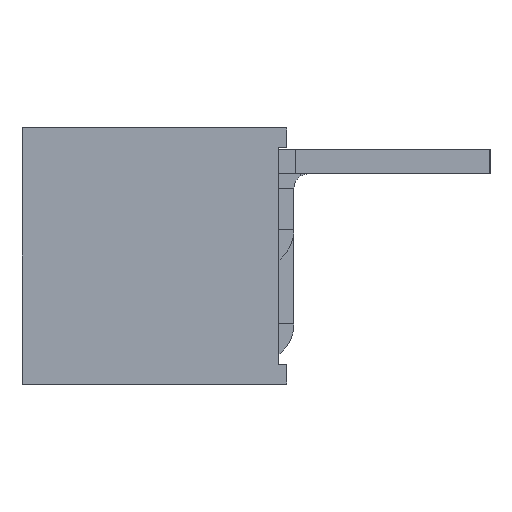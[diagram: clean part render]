
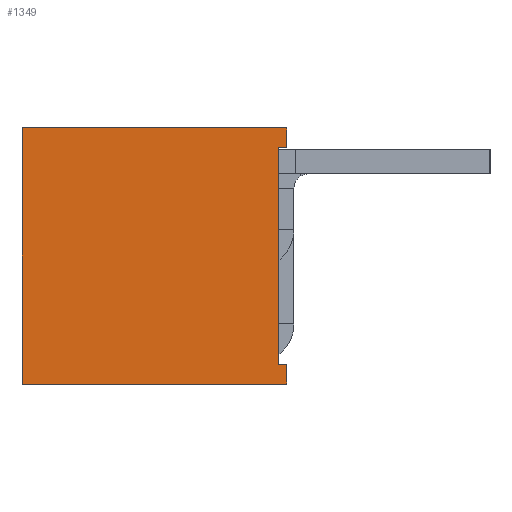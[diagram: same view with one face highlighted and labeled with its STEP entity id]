
A CAD part, left-side view. The second image highlights one B-rep face of the part: STEP entity #1349.
In plain terms, the highlighted planar face has unit normal (-1, 0, 0).
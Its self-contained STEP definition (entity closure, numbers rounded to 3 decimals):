
#144 = VECTOR ( 'NONE', #3069, 1000. ) ;
#329 = LINE ( 'NONE', #7819, #1824 ) ;
#434 = EDGE_CURVE ( 'NONE', #7177, #3387, #677, .T. ) ;
#587 = ORIENTED_EDGE ( 'NONE', *, *, #4355, .F. ) ;
#677 = LINE ( 'NONE', #1103, #870 ) ;
#870 = VECTOR ( 'NONE', #1685, 1000. ) ;
#978 = LINE ( 'NONE', #5955, #2458 ) ;
#1103 = CARTESIAN_POINT ( 'NONE',  ( -490.3, -69.373, 0. ) ) ;
#1194 = DIRECTION ( 'NONE',  ( 0., 0., -1. ) ) ;
#1201 = EDGE_CURVE ( 'NONE', #6006, #6346, #978, .T. ) ;
#1206 = CARTESIAN_POINT ( 'NONE',  ( -490.3, -54.853, -14.5 ) ) ;
#1244 = CARTESIAN_POINT ( 'NONE',  ( -490.3, -69.853, -13.4 ) ) ;
#1349 = ADVANCED_FACE ( 'NONE', ( #7664 ), #5501, .F. ) ;
#1448 = VERTEX_POINT ( 'NONE', #4407 ) ;
#1685 = DIRECTION ( 'NONE',  ( 0., 0., 1. ) ) ;
#1824 = VECTOR ( 'NONE', #6506, 1000. ) ;
#1884 = DIRECTION ( 'NONE',  ( 0., -1., 0. ) ) ;
#2020 = VERTEX_POINT ( 'NONE', #7339 ) ;
#2091 = EDGE_CURVE ( 'NONE', #1448, #3387, #4076, .T. ) ;
#2112 = ORIENTED_EDGE ( 'NONE', *, *, #4610, .F. ) ;
#2124 = LINE ( 'NONE', #4892, #2328 ) ;
#2285 = DIRECTION ( 'NONE',  ( 0., 0., 1. ) ) ;
#2328 = VECTOR ( 'NONE', #1194, 1000. ) ;
#2458 = VECTOR ( 'NONE', #2285, 1000. ) ;
#2518 = ORIENTED_EDGE ( 'NONE', *, *, #1201, .F. ) ;
#3069 = DIRECTION ( 'NONE',  ( 0., 1., 0. ) ) ;
#3387 = VERTEX_POINT ( 'NONE', #6135 ) ;
#3443 = VECTOR ( 'NONE', #1884, 1000. ) ;
#3660 = LINE ( 'NONE', #1206, #144 ) ;
#3676 = DIRECTION ( 'NONE',  ( 1., 0., 0. ) ) ;
#3779 = VERTEX_POINT ( 'NONE', #4292 ) ;
#3823 = CARTESIAN_POINT ( 'NONE',  ( -490.3, -54.853, -14.5 ) ) ;
#4035 = CARTESIAN_POINT ( 'NONE',  ( -490.3, -69.373, -13.4 ) ) ;
#4051 = VERTEX_POINT ( 'NONE', #4577 ) ;
#4076 = LINE ( 'NONE', #4319, #5697 ) ;
#4292 = CARTESIAN_POINT ( 'NONE',  ( -490.3, -69.853, 0. ) ) ;
#4319 = CARTESIAN_POINT ( 'NONE',  ( -490.3, -55.953, -1.1 ) ) ;
#4355 = EDGE_CURVE ( 'NONE', #4051, #2020, #2124, .T. ) ;
#4407 = CARTESIAN_POINT ( 'NONE',  ( -490.3, -69.853, -1.1 ) ) ;
#4577 = CARTESIAN_POINT ( 'NONE',  ( -490.3, -69.853, -13.4 ) ) ;
#4610 = EDGE_CURVE ( 'NONE', #2020, #6006, #3660, .T. ) ;
#4782 = AXIS2_PLACEMENT_3D ( 'NONE', #6751, #3676, #8002 ) ;
#4808 = ORIENTED_EDGE ( 'NONE', *, *, #5885, .F. ) ;
#4892 = CARTESIAN_POINT ( 'NONE',  ( -490.3, -69.853, -14.5 ) ) ;
#4988 = CARTESIAN_POINT ( 'NONE',  ( -490.3, -54.853, 0. ) ) ;
#5039 = EDGE_CURVE ( 'NONE', #3779, #1448, #329, .T. ) ;
#5159 = VECTOR ( 'NONE', #6783, 1000. ) ;
#5275 = LINE ( 'NONE', #1244, #3443 ) ;
#5471 = ORIENTED_EDGE ( 'NONE', *, *, #2091, .F. ) ;
#5501 = PLANE ( 'NONE',  #4782 ) ;
#5529 = CARTESIAN_POINT ( 'NONE',  ( -490.3, -69.853, 0. ) ) ;
#5651 = EDGE_LOOP ( 'NONE', ( #2112, #587, #4808, #7468, #5471, #7612, #7513, #2518 ) ) ;
#5697 = VECTOR ( 'NONE', #6143, 1000. ) ;
#5885 = EDGE_CURVE ( 'NONE', #7177, #4051, #5275, .T. ) ;
#5955 = CARTESIAN_POINT ( 'NONE',  ( -490.3, -54.853, 0. ) ) ;
#6006 = VERTEX_POINT ( 'NONE', #3823 ) ;
#6135 = CARTESIAN_POINT ( 'NONE',  ( -490.3, -69.373, -1.1 ) ) ;
#6143 = DIRECTION ( 'NONE',  ( 0., 1., 0. ) ) ;
#6346 = VERTEX_POINT ( 'NONE', #4988 ) ;
#6506 = DIRECTION ( 'NONE',  ( 0., 0., -1. ) ) ;
#6751 = CARTESIAN_POINT ( 'NONE',  ( -490.3, -54.853, 0. ) ) ;
#6783 = DIRECTION ( 'NONE',  ( 0., -1., 0. ) ) ;
#6812 = LINE ( 'NONE', #5529, #5159 ) ;
#7177 = VERTEX_POINT ( 'NONE', #4035 ) ;
#7339 = CARTESIAN_POINT ( 'NONE',  ( -490.3, -69.853, -14.5 ) ) ;
#7468 = ORIENTED_EDGE ( 'NONE', *, *, #434, .T. ) ;
#7513 = ORIENTED_EDGE ( 'NONE', *, *, #7740, .F. ) ;
#7612 = ORIENTED_EDGE ( 'NONE', *, *, #5039, .F. ) ;
#7664 = FACE_OUTER_BOUND ( 'NONE', #5651, .T. ) ;
#7740 = EDGE_CURVE ( 'NONE', #6346, #3779, #6812, .T. ) ;
#7819 = CARTESIAN_POINT ( 'NONE',  ( -490.3, -69.853, -1.1 ) ) ;
#8002 = DIRECTION ( 'NONE',  ( 0., -1., 0. ) ) ;
